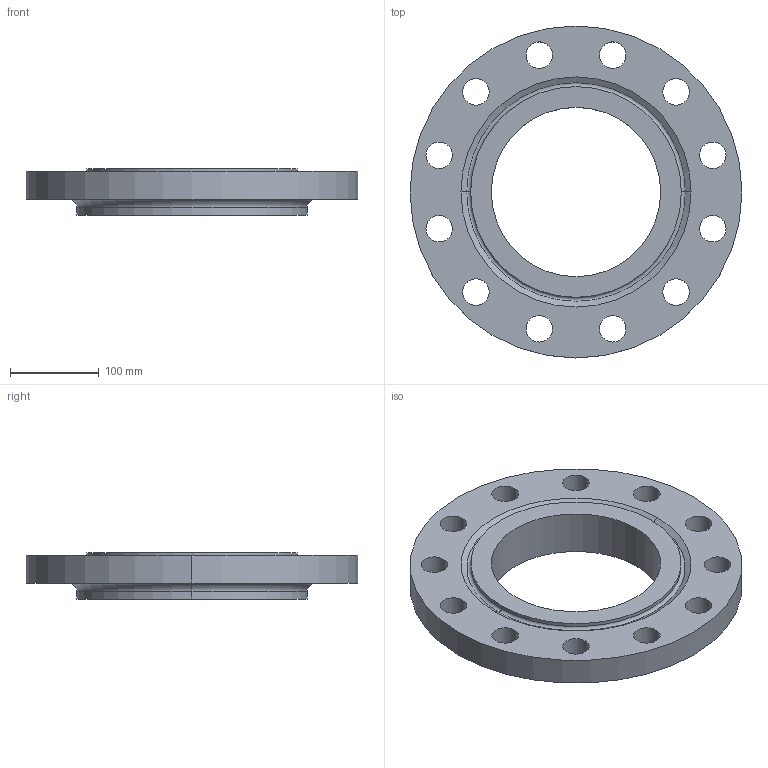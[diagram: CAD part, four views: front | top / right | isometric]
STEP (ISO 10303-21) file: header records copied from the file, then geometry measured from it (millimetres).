
FILE_DESCRIPTION (( 'STEP AP214' ), '1' );
FILE_NAME ('PN40 DN200 Type 13 - Type H Face.STEP', '2019-01-05T02:07:53', ( '' ), ( '' ), 'SwSTEP 2.0', 'SolidWorks 2019', '' );
FILE_SCHEMA (( 'AUTOMOTIVE_DESIGN' ));
Length unit declared in the file: millimetre
Products named in the file (1): PN40 DN200 Type 13 - Type H Face
Bounding box: 375 x 375 x 52 mm (x, y, z)
Volume: 2777032.9 mm3; surface area: 266928.1 mm2
Topology: 1 solids, 1 shells, 42 faces, 108 edges, 70 vertices
Faces by surface type: cylinder 32, torus 4, plane 4, cone 2
Entity records: 1404 total; most frequent: DIRECTION 268, CARTESIAN_POINT 221, ORIENTED_EDGE 216, AXIS2_PLACEMENT_3D 117, EDGE_CURVE 108, CIRCLE 74, EDGE_LOOP 70, VERTEX_POINT 70
